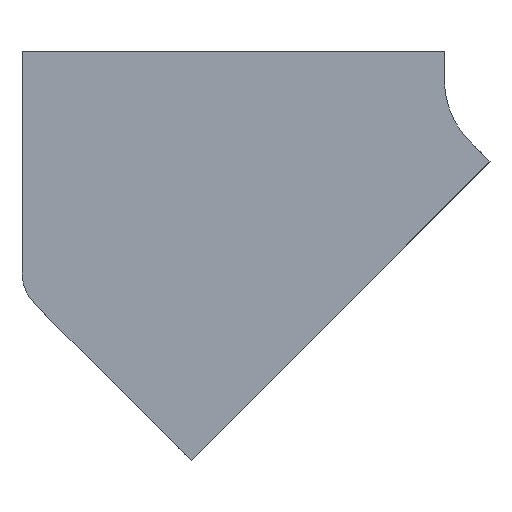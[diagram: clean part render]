
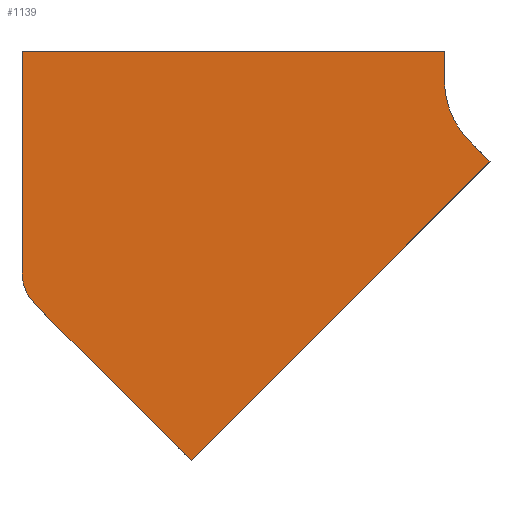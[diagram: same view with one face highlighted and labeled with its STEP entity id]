
A CAD part, front view. The second image highlights one B-rep face of the part: STEP entity #1139.
In plain terms, the highlighted planar face has unit normal (0, -1, 0).
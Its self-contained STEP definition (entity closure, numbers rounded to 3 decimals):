
#24 = EDGE_CURVE ( 'NONE', #1028, #481, #1137, .T. ) ;
#26 = DIRECTION ( 'NONE',  ( 0., -1., 0. ) ) ;
#121 = PLANE ( 'NONE',  #1097 ) ;
#133 = CARTESIAN_POINT ( 'NONE',  ( 0., 0., 0. ) ) ;
#250 = ORIENTED_EDGE ( 'NONE', *, *, #312, .F. ) ;
#252 = VECTOR ( 'NONE', #1381, 1000. ) ;
#255 = DIRECTION ( 'NONE',  ( -0.707, 0., -0.707 ) ) ;
#265 = CARTESIAN_POINT ( 'NONE',  ( -60.104, 0., -116.673 ) ) ;
#294 = CARTESIAN_POINT ( 'NONE',  ( -125., 0., 40. ) ) ;
#312 = EDGE_CURVE ( 'NONE', #875, #669, #911, .T. ) ;
#368 = ORIENTED_EDGE ( 'NONE', *, *, #1618, .F. ) ;
#421 = CARTESIAN_POINT ( 'NONE',  ( -125., 0., 0. ) ) ;
#442 = DIRECTION ( 'NONE',  ( 0., 1., 0. ) ) ;
#462 = EDGE_LOOP ( 'NONE', ( #708, #885, #368, #1463, #1521, #817, #250, #712 ) ) ;
#481 = VERTEX_POINT ( 'NONE', #793 ) ;
#485 = DIRECTION ( 'NONE',  ( 0., -1., 0. ) ) ;
#501 = VECTOR ( 'NONE', #922, 1000. ) ;
#519 = DIRECTION ( 'NONE',  ( 0., 0., -1. ) ) ;
#540 = AXIS2_PLACEMENT_3D ( 'NONE', #1209, #442, #547 ) ;
#547 = DIRECTION ( 'NONE',  ( 0., 0., 1. ) ) ;
#593 = EDGE_CURVE ( 'NONE', #1132, #898, #1286, .T. ) ;
#608 = CARTESIAN_POINT ( 'NONE',  ( -88.388, 0., -88.388 ) ) ;
#613 = DIRECTION ( 'NONE',  ( -0.707, 0., 0.707 ) ) ;
#629 = CARTESIAN_POINT ( 'NONE',  ( 0., 0., 0. ) ) ;
#656 = CARTESIAN_POINT ( 'NONE',  ( -706.694, 0., -318.611 ) ) ;
#669 = VERTEX_POINT ( 'NONE', #880 ) ;
#687 = AXIS2_PLACEMENT_3D ( 'NONE', #133, #26, #1317 ) ;
#708 = ORIENTED_EDGE ( 'NONE', *, *, #973, .F. ) ;
#712 = ORIENTED_EDGE ( 'NONE', *, *, #847, .F. ) ;
#734 = CARTESIAN_POINT ( 'NONE',  ( -60.104, 0., -116.673 ) ) ;
#752 = VERTEX_POINT ( 'NONE', #265 ) ;
#770 = LINE ( 'NONE', #734, #1345 ) ;
#793 = CARTESIAN_POINT ( 'NONE',  ( -725., 0., 40. ) ) ;
#817 = ORIENTED_EDGE ( 'NONE', *, *, #1338, .F. ) ;
#847 = EDGE_CURVE ( 'NONE', #1550, #875, #951, .T. ) ;
#874 = CARTESIAN_POINT ( 'NONE',  ( -725., 0., -274.416 ) ) ;
#875 = VERTEX_POINT ( 'NONE', #421 ) ;
#880 = CARTESIAN_POINT ( 'NONE',  ( -88.388, 0., -88.388 ) ) ;
#885 = ORIENTED_EDGE ( 'NONE', *, *, #24, .F. ) ;
#898 = VERTEX_POINT ( 'NONE', #656 ) ;
#911 = CIRCLE ( 'NONE', #687, 125. ) ;
#922 = DIRECTION ( 'NONE',  ( 0., 0., -1. ) ) ;
#951 = LINE ( 'NONE', #294, #501 ) ;
#973 = EDGE_CURVE ( 'NONE', #481, #1550, #1624, .T. ) ;
#1028 = VERTEX_POINT ( 'NONE', #1360 ) ;
#1056 = VECTOR ( 'NONE', #1649, 1000. ) ;
#1058 = EDGE_CURVE ( 'NONE', #752, #1132, #770, .T. ) ;
#1068 = CIRCLE ( 'NONE', #540, 62.5 ) ;
#1072 = VECTOR ( 'NONE', #1367, 1000. ) ;
#1097 = AXIS2_PLACEMENT_3D ( 'NONE', #629, #485, #519 ) ;
#1132 = VERTEX_POINT ( 'NONE', #1558 ) ;
#1137 = LINE ( 'NONE', #874, #1056 ) ;
#1139 = ADVANCED_FACE ( 'NONE', ( #1293 ), #121, .T. ) ;
#1209 = CARTESIAN_POINT ( 'NONE',  ( -662.5, 0., -274.416 ) ) ;
#1286 = LINE ( 'NONE', #1405, #1513 ) ;
#1293 = FACE_OUTER_BOUND ( 'NONE', #462, .T. ) ;
#1317 = DIRECTION ( 'NONE',  ( 0., 0., -1. ) ) ;
#1338 = EDGE_CURVE ( 'NONE', #669, #752, #1539, .T. ) ;
#1345 = VECTOR ( 'NONE', #255, 1000. ) ;
#1360 = CARTESIAN_POINT ( 'NONE',  ( -725., 0., -274.416 ) ) ;
#1367 = DIRECTION ( 'NONE',  ( 1., 0., 0. ) ) ;
#1375 = CARTESIAN_POINT ( 'NONE',  ( -725., 0., 40. ) ) ;
#1381 = DIRECTION ( 'NONE',  ( 0.707, 0., -0.707 ) ) ;
#1405 = CARTESIAN_POINT ( 'NONE',  ( -484.368, 0., -540.937 ) ) ;
#1457 = CARTESIAN_POINT ( 'NONE',  ( -125., 0., 40. ) ) ;
#1463 = ORIENTED_EDGE ( 'NONE', *, *, #593, .F. ) ;
#1513 = VECTOR ( 'NONE', #613, 1000. ) ;
#1521 = ORIENTED_EDGE ( 'NONE', *, *, #1058, .F. ) ;
#1539 = LINE ( 'NONE', #608, #252 ) ;
#1550 = VERTEX_POINT ( 'NONE', #1457 ) ;
#1558 = CARTESIAN_POINT ( 'NONE',  ( -484.368, 0., -540.937 ) ) ;
#1618 = EDGE_CURVE ( 'NONE', #898, #1028, #1068, .T. ) ;
#1624 = LINE ( 'NONE', #1375, #1072 ) ;
#1649 = DIRECTION ( 'NONE',  ( 0., 0., 1. ) ) ;
